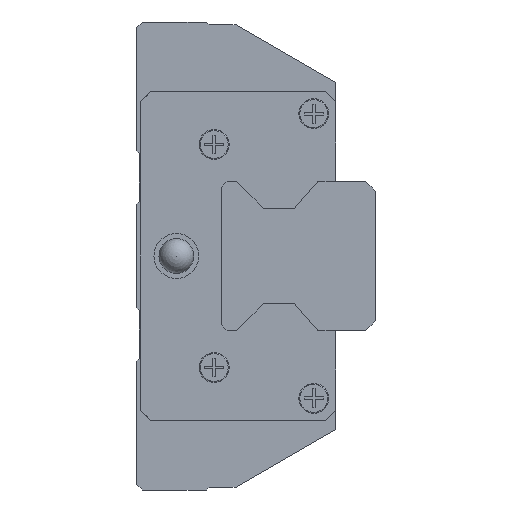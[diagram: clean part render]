
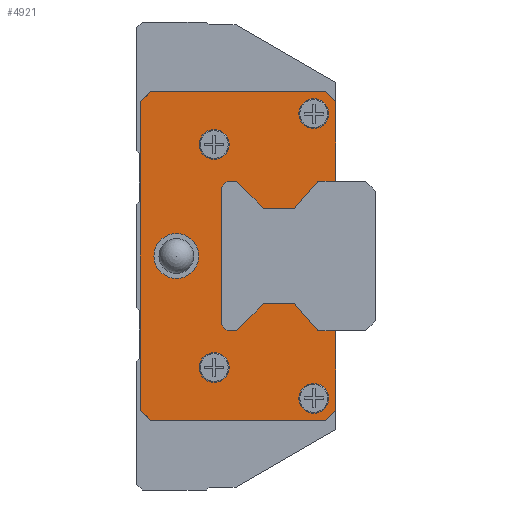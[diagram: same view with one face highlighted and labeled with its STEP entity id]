
A CAD part, left-side view. The second image highlights one B-rep face of the part: STEP entity #4921.
In plain terms, the highlighted planar face has unit normal (-1, 0, 0).
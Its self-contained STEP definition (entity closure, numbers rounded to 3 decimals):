
#102=CIRCLE('',#5221,0.5);
#104=CIRCLE('',#5225,0.5);
#106=CIRCLE('',#5230,0.5);
#108=CIRCLE('',#5234,0.5);
#131=CIRCLE('',#5315,1.5);
#132=CIRCLE('',#5316,1.5);
#133=CIRCLE('',#5317,1.5);
#134=CIRCLE('',#5318,1.5);
#135=CIRCLE('',#5319,1.5);
#846=ORIENTED_EDGE('',*,*,#1916,.T.);
#847=ORIENTED_EDGE('',*,*,#1917,.T.);
#848=ORIENTED_EDGE('',*,*,#1918,.T.);
#849=ORIENTED_EDGE('',*,*,#1919,.T.);
#850=ORIENTED_EDGE('',*,*,#1920,.T.);
#851=ORIENTED_EDGE('',*,*,#1718,.F.);
#852=ORIENTED_EDGE('',*,*,#1715,.F.);
#853=ORIENTED_EDGE('',*,*,#1758,.F.);
#854=ORIENTED_EDGE('',*,*,#1767,.T.);
#855=ORIENTED_EDGE('',*,*,#1792,.T.);
#856=ORIENTED_EDGE('',*,*,#1795,.F.);
#857=ORIENTED_EDGE('',*,*,#1798,.T.);
#858=ORIENTED_EDGE('',*,*,#1801,.F.);
#859=ORIENTED_EDGE('',*,*,#1804,.T.);
#860=ORIENTED_EDGE('',*,*,#1811,.T.);
#861=ORIENTED_EDGE('',*,*,#1828,.T.);
#862=ORIENTED_EDGE('',*,*,#1831,.T.);
#863=ORIENTED_EDGE('',*,*,#1834,.T.);
#864=ORIENTED_EDGE('',*,*,#1771,.T.);
#865=ORIENTED_EDGE('',*,*,#1778,.T.);
#866=ORIENTED_EDGE('',*,*,#1781,.F.);
#867=ORIENTED_EDGE('',*,*,#1784,.T.);
#868=ORIENTED_EDGE('',*,*,#1787,.F.);
#869=ORIENTED_EDGE('',*,*,#1789,.T.);
#870=ORIENTED_EDGE('',*,*,#1764,.T.);
#871=ORIENTED_EDGE('',*,*,#1754,.F.);
#872=ORIENTED_EDGE('',*,*,#1707,.F.);
#873=ORIENTED_EDGE('',*,*,#1703,.F.);
#874=ORIENTED_EDGE('',*,*,#1696,.F.);
#875=ORIENTED_EDGE('',*,*,#1823,.F.);
#876=ORIENTED_EDGE('',*,*,#1680,.F.);
#1680=EDGE_CURVE('',#2314,#2315,#2778,.T.);
#1696=EDGE_CURVE('',#2328,#2329,#2794,.T.);
#1703=EDGE_CURVE('',#2329,#2334,#2800,.T.);
#1707=EDGE_CURVE('',#2334,#2336,#2804,.T.);
#1715=EDGE_CURVE('',#2343,#2344,#2812,.T.);
#1718=EDGE_CURVE('',#2344,#2314,#2815,.T.);
#1754=EDGE_CURVE('',#2336,#2375,#2848,.T.);
#1758=EDGE_CURVE('',#2377,#2343,#2852,.T.);
#1764=EDGE_CURVE('',#2381,#2375,#2858,.T.);
#1767=EDGE_CURVE('',#2377,#2383,#2861,.T.);
#1771=EDGE_CURVE('',#2388,#2387,#2865,.T.);
#1778=EDGE_CURVE('',#2387,#2393,#2872,.T.);
#1781=EDGE_CURVE('',#2395,#2393,#102,.T.);
#1784=EDGE_CURVE('',#2395,#2397,#2876,.T.);
#1787=EDGE_CURVE('',#2399,#2397,#104,.T.);
#1789=EDGE_CURVE('',#2399,#2381,#2879,.T.);
#1792=EDGE_CURVE('',#2383,#2401,#2882,.T.);
#1795=EDGE_CURVE('',#2403,#2401,#106,.T.);
#1798=EDGE_CURVE('',#2403,#2405,#2886,.T.);
#1801=EDGE_CURVE('',#2407,#2405,#108,.T.);
#1804=EDGE_CURVE('',#2407,#2409,#2890,.T.);
#1811=EDGE_CURVE('',#2409,#2415,#2897,.T.);
#1823=EDGE_CURVE('',#2315,#2328,#2908,.T.);
#1828=EDGE_CURVE('',#2415,#2422,#2912,.T.);
#1831=EDGE_CURVE('',#2422,#2424,#2915,.T.);
#1834=EDGE_CURVE('',#2424,#2388,#2918,.T.);
#1916=EDGE_CURVE('',#2486,#2486,#131,.T.);
#1917=EDGE_CURVE('',#2487,#2487,#132,.T.);
#1918=EDGE_CURVE('',#2488,#2488,#133,.T.);
#1919=EDGE_CURVE('',#2489,#2489,#134,.T.);
#1920=EDGE_CURVE('',#2490,#2490,#135,.T.);
#2314=VERTEX_POINT('',#7170);
#2315=VERTEX_POINT('',#7172);
#2328=VERTEX_POINT('',#7203);
#2329=VERTEX_POINT('',#7205);
#2334=VERTEX_POINT('',#7219);
#2336=VERTEX_POINT('',#7226);
#2343=VERTEX_POINT('',#7241);
#2344=VERTEX_POINT('',#7243);
#2375=VERTEX_POINT('',#7319);
#2377=VERTEX_POINT('',#7325);
#2381=VERTEX_POINT('',#7335);
#2383=VERTEX_POINT('',#7342);
#2387=VERTEX_POINT('',#7351);
#2388=VERTEX_POINT('',#7353);
#2393=VERTEX_POINT('',#7365);
#2395=VERTEX_POINT('',#7371);
#2397=VERTEX_POINT('',#7377);
#2399=VERTEX_POINT('',#7383);
#2401=VERTEX_POINT('',#7392);
#2403=VERTEX_POINT('',#7398);
#2405=VERTEX_POINT('',#7404);
#2407=VERTEX_POINT('',#7410);
#2409=VERTEX_POINT('',#7416);
#2415=VERTEX_POINT('',#7430);
#2422=VERTEX_POINT('',#7462);
#2424=VERTEX_POINT('',#7468);
#2486=VERTEX_POINT('',#7663);
#2487=VERTEX_POINT('',#7665);
#2488=VERTEX_POINT('',#7667);
#2489=VERTEX_POINT('',#7669);
#2490=VERTEX_POINT('',#7671);
#2778=LINE('',#7171,#3344);
#2794=LINE('',#7204,#3360);
#2800=LINE('',#7218,#3366);
#2804=LINE('',#7225,#3370);
#2812=LINE('',#7242,#3378);
#2815=LINE('',#7247,#3381);
#2848=LINE('',#7318,#3414);
#2852=LINE('',#7326,#3418);
#2858=LINE('',#7337,#3424);
#2861=LINE('',#7343,#3427);
#2865=LINE('',#7352,#3431);
#2872=LINE('',#7366,#3438);
#2876=LINE('',#7378,#3442);
#2879=LINE('',#7387,#3445);
#2882=LINE('',#7393,#3448);
#2886=LINE('',#7405,#3452);
#2890=LINE('',#7417,#3456);
#2897=LINE('',#7431,#3463);
#2908=LINE('',#7453,#3474);
#2912=LINE('',#7461,#3478);
#2915=LINE('',#7467,#3481);
#2918=LINE('',#7473,#3484);
#3344=VECTOR('',#5795,1000.);
#3360=VECTOR('',#5817,1000.);
#3366=VECTOR('',#5829,1000.);
#3370=VECTOR('',#5835,1000.);
#3378=VECTOR('',#5845,1000.);
#3381=VECTOR('',#5850,1000.);
#3414=VECTOR('',#5899,1000.);
#3418=VECTOR('',#5905,1000.);
#3424=VECTOR('',#5913,1000.);
#3427=VECTOR('',#5918,1000.);
#3431=VECTOR('',#5924,1000.);
#3438=VECTOR('',#5933,1000.);
#3442=VECTOR('',#5945,1000.);
#3445=VECTOR('',#5956,1000.);
#3448=VECTOR('',#5961,1000.);
#3452=VECTOR('',#5973,1000.);
#3456=VECTOR('',#5985,1000.);
#3463=VECTOR('',#5994,1000.);
#3474=VECTOR('',#6017,1000.);
#3478=VECTOR('',#6027,1000.);
#3481=VECTOR('',#6032,1000.);
#3484=VECTOR('',#6037,1000.);
#3988=EDGE_LOOP('',(#846));
#3989=EDGE_LOOP('',(#847));
#3990=EDGE_LOOP('',(#848));
#3991=EDGE_LOOP('',(#849));
#3992=EDGE_LOOP('',(#850));
#3993=EDGE_LOOP('',(#851,#852,#853,#854,#855,#856,#857,#858,#859,#860,#861,
#862,#863,#864,#865,#866,#867,#868,#869,#870,#871,#872,#873,#874,#875,#876));
#4374=FACE_BOUND('',#3988,.T.);
#4375=FACE_BOUND('',#3989,.T.);
#4376=FACE_BOUND('',#3990,.T.);
#4377=FACE_BOUND('',#3991,.T.);
#4378=FACE_BOUND('',#3992,.T.);
#4379=FACE_BOUND('',#3993,.T.);
#4656=PLANE('',#5314);
#4921=ADVANCED_FACE('',(#4374,#4375,#4376,#4377,#4378,#4379),#4656,.F.);
#5221=AXIS2_PLACEMENT_3D('',#7372,#5939,#5940);
#5225=AXIS2_PLACEMENT_3D('',#7384,#5951,#5952);
#5230=AXIS2_PLACEMENT_3D('',#7399,#5967,#5968);
#5234=AXIS2_PLACEMENT_3D('',#7411,#5979,#5980);
#5314=AXIS2_PLACEMENT_3D('',#7661,#6231,#6232);
#5315=AXIS2_PLACEMENT_3D('',#7662,#6233,#6234);
#5316=AXIS2_PLACEMENT_3D('',#7664,#6235,#6236);
#5317=AXIS2_PLACEMENT_3D('',#7666,#6237,#6238);
#5318=AXIS2_PLACEMENT_3D('',#7668,#6239,#6240);
#5319=AXIS2_PLACEMENT_3D('',#7670,#6241,#6242);
#5795=DIRECTION('',(0.,0.707,0.707));
#5817=DIRECTION('',(0.,-0.707,0.707));
#5829=DIRECTION('',(0.,-1.,0.));
#5835=DIRECTION('',(0.,-0.707,-0.707));
#5845=DIRECTION('',(0.,0.707,-0.707));
#5850=DIRECTION('',(0.,1.,0.));
#5899=DIRECTION('',(0.,0.,-1.));
#5905=DIRECTION('',(0.,0.,-1.));
#5913=DIRECTION('',(0.,-1.,0.));
#5918=DIRECTION('',(0.,1.,0.));
#5924=DIRECTION('',(0.,-1.,0.));
#5933=DIRECTION('',(0.,-0.699,-0.715));
#5939=DIRECTION('',(1.,0.,0.));
#5940=DIRECTION('',(0.,0.,-1.));
#5945=DIRECTION('',(0.,-1.,0.));
#5951=DIRECTION('',(1.,0.,0.));
#5952=DIRECTION('',(0.,0.,-1.));
#5956=DIRECTION('',(0.,-0.653,0.757));
#5961=DIRECTION('',(0.,0.653,0.757));
#5967=DIRECTION('',(1.,0.,0.));
#5968=DIRECTION('',(0.,0.,-1.));
#5973=DIRECTION('',(0.,1.,0.));
#5979=DIRECTION('',(1.,0.,0.));
#5980=DIRECTION('',(0.,0.,-1.));
#5985=DIRECTION('',(0.,0.699,-0.715));
#5994=DIRECTION('',(0.,1.,0.));
#6017=DIRECTION('',(0.,0.,1.));
#6027=DIRECTION('',(0.,0.707,0.707));
#6032=DIRECTION('',(0.,0.,1.));
#6037=DIRECTION('',(0.,-0.707,0.707));
#6231=DIRECTION('',(1.,0.,0.));
#6232=DIRECTION('',(0.,0.,-1.));
#6233=DIRECTION('',(1.,0.,0.));
#6234=DIRECTION('',(0.,0.,-1.));
#6235=DIRECTION('',(1.,0.,0.));
#6236=DIRECTION('',(0.,0.,-1.));
#6237=DIRECTION('',(1.,0.,0.));
#6238=DIRECTION('',(0.,0.,-1.));
#6239=DIRECTION('',(1.,0.,0.));
#6240=DIRECTION('',(0.,0.,-1.));
#6241=DIRECTION('',(1.,0.,0.));
#6242=DIRECTION('',(0.,0.,-1.));
#7170=CARTESIAN_POINT('',(-34.5,18.6,-16.5));
#7171=CARTESIAN_POINT('',(-34.5,18.6,-16.5));
#7172=CARTESIAN_POINT('',(-34.5,19.6,-15.5));
#7203=CARTESIAN_POINT('',(-34.5,19.6,15.5));
#7204=CARTESIAN_POINT('',(-34.5,19.6,15.5));
#7205=CARTESIAN_POINT('',(-34.5,18.6,16.5));
#7218=CARTESIAN_POINT('',(-34.5,19.6,16.5));
#7219=CARTESIAN_POINT('',(-34.5,1.,16.5));
#7225=CARTESIAN_POINT('',(-34.5,1.,16.5));
#7226=CARTESIAN_POINT('',(-34.5,0.,15.5));
#7241=CARTESIAN_POINT('',(-34.5,0.,-15.5));
#7242=CARTESIAN_POINT('',(-34.5,0.,-15.5));
#7243=CARTESIAN_POINT('',(-34.5,1.,-16.5));
#7247=CARTESIAN_POINT('',(-34.5,0.,-16.5));
#7318=CARTESIAN_POINT('',(-34.5,0.,16.5));
#7319=CARTESIAN_POINT('',(-34.5,0.,7.5));
#7325=CARTESIAN_POINT('',(-34.5,0.,-7.5));
#7326=CARTESIAN_POINT('',(-34.5,0.,16.5));
#7335=CARTESIAN_POINT('',(-34.5,1.784,7.5));
#7337=CARTESIAN_POINT('',(-34.5,1.784,7.5));
#7342=CARTESIAN_POINT('',(-34.5,1.784,-7.5));
#7343=CARTESIAN_POINT('',(-34.5,-3.,-7.5));
#7351=CARTESIAN_POINT('',(-34.5,9.926,7.5));
#7352=CARTESIAN_POINT('',(-34.5,10.9,7.5));
#7353=CARTESIAN_POINT('',(-34.5,10.9,7.5));
#7365=CARTESIAN_POINT('',(-34.5,7.388,4.901));
#7366=CARTESIAN_POINT('',(-34.5,9.926,7.5));
#7371=CARTESIAN_POINT('',(-34.5,7.03,4.75));
#7372=CARTESIAN_POINT('',(-34.5,7.03,5.25));
#7377=CARTESIAN_POINT('',(-34.5,4.386,4.75));
#7378=CARTESIAN_POINT('',(-34.5,7.03,4.75));
#7383=CARTESIAN_POINT('',(-34.5,4.007,4.923));
#7384=CARTESIAN_POINT('',(-34.5,4.386,5.25));
#7387=CARTESIAN_POINT('',(-34.5,4.007,4.923));
#7392=CARTESIAN_POINT('',(-34.5,4.007,-4.923));
#7393=CARTESIAN_POINT('',(-34.5,1.784,-7.5));
#7398=CARTESIAN_POINT('',(-34.5,4.386,-4.75));
#7399=CARTESIAN_POINT('',(-34.5,4.386,-5.25));
#7404=CARTESIAN_POINT('',(-34.5,7.03,-4.75));
#7405=CARTESIAN_POINT('',(-34.5,4.386,-4.75));
#7410=CARTESIAN_POINT('',(-34.5,7.388,-4.901));
#7411=CARTESIAN_POINT('',(-34.5,7.03,-5.25));
#7416=CARTESIAN_POINT('',(-34.5,9.926,-7.5));
#7417=CARTESIAN_POINT('',(-34.5,7.388,-4.901));
#7430=CARTESIAN_POINT('',(-34.5,10.9,-7.5));
#7431=CARTESIAN_POINT('',(-34.5,9.926,-7.5));
#7453=CARTESIAN_POINT('',(-34.5,19.6,-16.5));
#7461=CARTESIAN_POINT('',(-34.5,10.9,-7.5));
#7462=CARTESIAN_POINT('',(-34.5,11.5,-6.9));
#7467=CARTESIAN_POINT('',(-34.5,11.5,-6.9));
#7468=CARTESIAN_POINT('',(-34.5,11.5,6.9));
#7473=CARTESIAN_POINT('',(-34.5,11.5,6.9));
#7661=CARTESIAN_POINT('',(-34.5,0.,0.));
#7662=CARTESIAN_POINT('',(-34.5,16.,0.));
#7663=CARTESIAN_POINT('',(-34.5,16.,-1.5));
#7664=CARTESIAN_POINT('',(-34.5,2.2,-14.3));
#7665=CARTESIAN_POINT('',(-34.5,2.2,-15.8));
#7666=CARTESIAN_POINT('',(-34.5,2.2,14.3));
#7667=CARTESIAN_POINT('',(-34.5,2.2,12.8));
#7668=CARTESIAN_POINT('',(-34.5,12.2,-11.2));
#7669=CARTESIAN_POINT('',(-34.5,12.2,-12.7));
#7670=CARTESIAN_POINT('',(-34.5,12.2,11.2));
#7671=CARTESIAN_POINT('',(-34.5,12.2,9.7));
